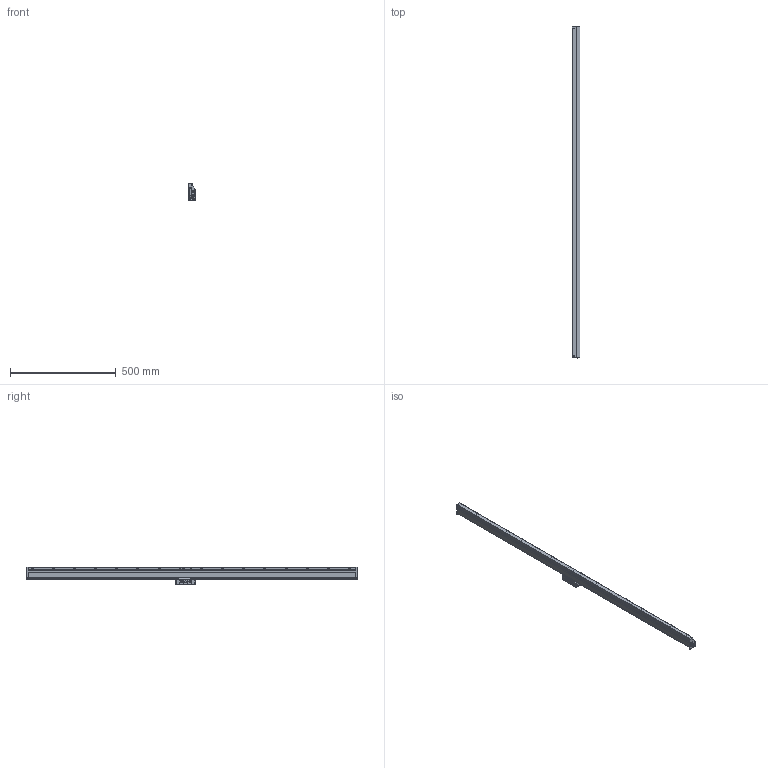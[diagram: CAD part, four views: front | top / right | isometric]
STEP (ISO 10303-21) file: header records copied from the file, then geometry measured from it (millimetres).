
FILE_DESCRIPTION(('Creo Elements/Direct Modeling STEP Export'),'2;1');
FILE_NAME('AT1153-1440.stp','2018-10-12T11:43:02',(''),(''),'Creo Elements/Direct Modeling STEP processor for AP214 (Solid Model)','Creo Elements/Direct Modeling 18.1B 29-Sep-2012 (C) Parametric Technology GmbH','');
FILE_SCHEMA(('AUTOMOTIVE_DESIGN { 1 0 10303 214 1 1 1 1 }'));
Products named in the file (3): Scale_1440; DetectorHead; AT1153-1440
Assembly tree (2 placements, depth 2):
  AT1153-1440
    DetectorHead
    Scale_1440
Bounding box: 37 x 1568.31 x 85 mm (x, y, z)
Volume: 75076.9 mm3; surface area: 353864.4 mm2
Topology: 1 solids, 2 shells, 3065 faces, 8212 edges, 5329 vertices
Faces by surface type: plane 1822, cylinder 1019, cone 122, torus 69, bspline 13, sphere 12, extrusion 8
Entity records: 98188 total; most frequent: CARTESIAN_POINT 18326, ORIENTED_EDGE 16512, DIRECTION 15484, EDGE_CURVE 8198, VERTEX_POINT 5329, VECTOR 5316, LINE 5308, AXIS2_PLACEMENT_3D 5084
